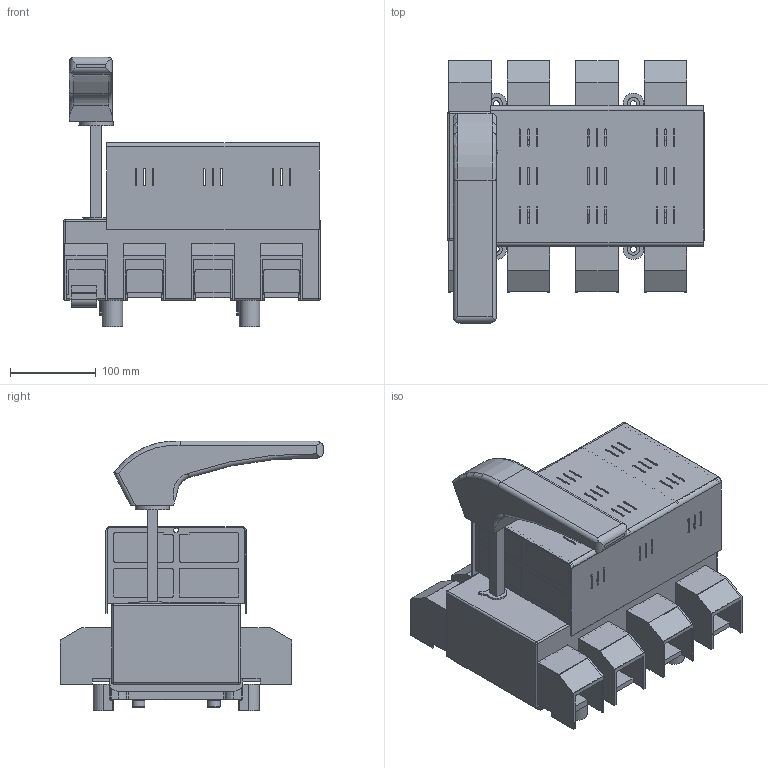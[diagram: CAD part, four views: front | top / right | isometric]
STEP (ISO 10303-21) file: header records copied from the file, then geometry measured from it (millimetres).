
FILE_DESCRIPTION(/* description */ (''),/* implementation_level */ '2;1');
FILE_NAME(/* name */ 'RAB 3 P3 N-R z oslona zaciskow.stp',/* time_stamp */ '2021-08-19T14:34:40+02:00',/* author */ (''),/* organization */ (''),/* preprocessor_version */ 'ST-DEVELOPER v18.1',/* originating_system */ 'SIEMENS PLM Software NX 1965',/* authorisation */ '');
FILE_SCHEMA (('AUTOMOTIVE_DESIGN { 1 0 10303 214 3 1 1 1 }'));
Length unit declared in the file: millimetre
Products named in the file (1): RAB 3 P3 N-R z oslona zaciskow
Bounding box: 300 x 307 x 314.5 mm (x, y, z)
Volume: 5127142.2 mm3; surface area: 858706.4 mm2
Topology: 1 solids, 15 shells, 1800 faces, 4906 edges, 3164 vertices
Faces by surface type: plane 1106, cylinder 578, bspline 52, torus 48, sphere 8, cone 8
Full cylindrical faces by diameter (mm): 3 x4, 4.8 x4, 5.2 x2, 5.6 x4, 6.5 x26, 7 x4, 10.5 x26, 13 x8, 13.5 x4, 14 x4, 15 x4, 40 x1
Entity records: 59222 total; most frequent: CARTESIAN_POINT 13526, ORIENTED_EDGE 9498, DIRECTION 9348, EDGE_CURVE 4749, LINE 3348, VECTOR 3348, VERTEX_POINT 3127, AXIS2_PLACEMENT_3D 3000
